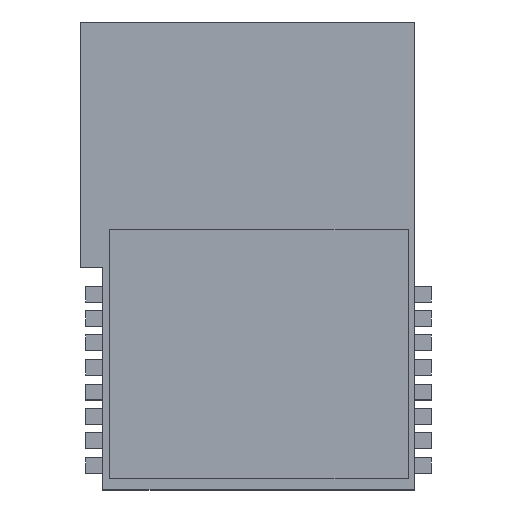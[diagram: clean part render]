
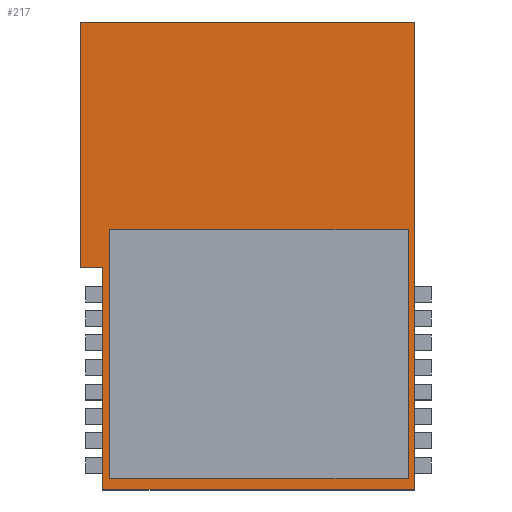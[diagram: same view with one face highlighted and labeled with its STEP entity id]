
A CAD part, top view. The second image highlights one B-rep face of the part: STEP entity #217.
In plain terms, the highlighted planar face has unit normal (0, 0, 1).
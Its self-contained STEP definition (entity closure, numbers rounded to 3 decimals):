
#24 = VERTEX_POINT('',#25);
#25 = CARTESIAN_POINT('',(-8.,10.5,0.65));
#31 = EDGE_CURVE('',#24,#32,#34,.T.);
#32 = VERTEX_POINT('',#33);
#33 = CARTESIAN_POINT('',(7.,10.5,0.65));
#34 = LINE('',#35,#36);
#35 = CARTESIAN_POINT('',(-8.,10.5,0.65));
#36 = VECTOR('',#37,1.);
#37 = DIRECTION('',(1.,0.,0.));
#62 = EDGE_CURVE('',#32,#63,#65,.T.);
#63 = VERTEX_POINT('',#64);
#64 = CARTESIAN_POINT('',(7.,-10.5,0.65));
#65 = LINE('',#66,#67);
#66 = CARTESIAN_POINT('',(7.,10.5,0.65));
#67 = VECTOR('',#68,1.);
#68 = DIRECTION('',(0.,-1.,0.));
#93 = EDGE_CURVE('',#63,#94,#96,.T.);
#94 = VERTEX_POINT('',#95);
#95 = CARTESIAN_POINT('',(-7.,-10.5,0.65));
#96 = LINE('',#97,#98);
#97 = CARTESIAN_POINT('',(7.,-10.5,0.65));
#98 = VECTOR('',#99,1.);
#99 = DIRECTION('',(-1.,0.,0.));
#124 = EDGE_CURVE('',#94,#125,#127,.T.);
#125 = VERTEX_POINT('',#126);
#126 = CARTESIAN_POINT('',(-7.,-0.5,0.65));
#127 = LINE('',#128,#129);
#128 = CARTESIAN_POINT('',(-7.,-10.5,0.65));
#129 = VECTOR('',#130,1.);
#130 = DIRECTION('',(0.,1.,0.));
#155 = EDGE_CURVE('',#125,#156,#158,.T.);
#156 = VERTEX_POINT('',#157);
#157 = CARTESIAN_POINT('',(-8.,-0.5,0.65));
#158 = LINE('',#159,#160);
#159 = CARTESIAN_POINT('',(-7.,-0.5,0.65));
#160 = VECTOR('',#161,1.);
#161 = DIRECTION('',(-1.,0.,0.));
#186 = EDGE_CURVE('',#156,#24,#187,.T.);
#187 = LINE('',#188,#189);
#188 = CARTESIAN_POINT('',(-8.,-0.5,0.65));
#189 = VECTOR('',#190,1.);
#190 = DIRECTION('',(0.,1.,0.));
#217 = ADVANCED_FACE('',(#218),#226,.F.);
#218 = FACE_BOUND('',#219,.F.);
#219 = EDGE_LOOP('',(#220,#221,#222,#223,#224,#225));
#220 = ORIENTED_EDGE('',*,*,#31,.T.);
#221 = ORIENTED_EDGE('',*,*,#62,.T.);
#222 = ORIENTED_EDGE('',*,*,#93,.T.);
#223 = ORIENTED_EDGE('',*,*,#124,.T.);
#224 = ORIENTED_EDGE('',*,*,#155,.T.);
#225 = ORIENTED_EDGE('',*,*,#186,.T.);
#226 = PLANE('',#227);
#227 = AXIS2_PLACEMENT_3D('',#228,#229,#230);
#228 = CARTESIAN_POINT('',(-0.361,0.139,0.65));
#229 = DIRECTION('',(-0.,-0.,-1.));
#230 = DIRECTION('',(-1.,0.,0.));
